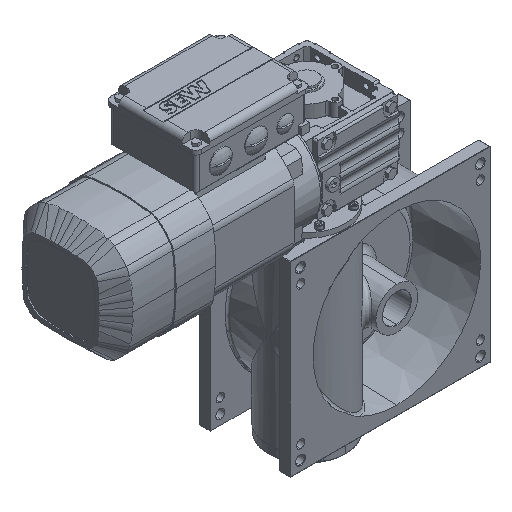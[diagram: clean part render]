
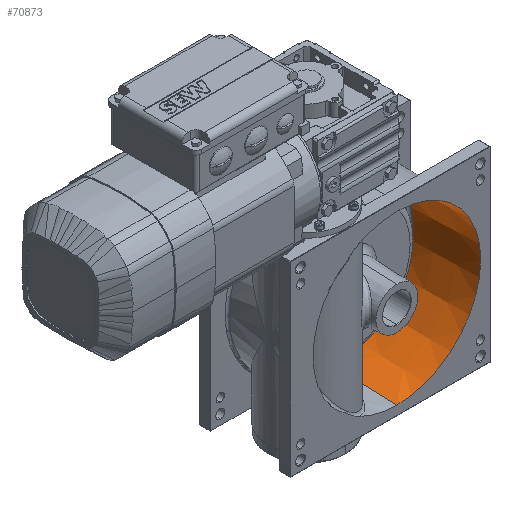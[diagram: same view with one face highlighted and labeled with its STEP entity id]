
A CAD part, isometric view. The second image highlights one B-rep face of the part: STEP entity #70873.
In plain terms, the highlighted conical face has half-angle 2 degrees and reference radius 104.105 mm.
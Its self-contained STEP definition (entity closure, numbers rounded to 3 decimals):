
#1968 = CARTESIAN_POINT ( 'NONE',  ( 0., 84.705, 101.147 ) ) ;
#3693 = VECTOR ( 'NONE', #41235, 1000. ) ;
#4911 = CIRCLE ( 'NONE', #14232, 101.147 ) ;
#7809 = DIRECTION ( 'NONE',  ( 0., 1., 0. ) ) ;
#8694 = EDGE_CURVE ( 'NONE', #64874, #30391, #4911, .T. ) ;
#11816 = DIRECTION ( 'NONE',  ( 0., 0., -1. ) ) ;
#14232 = AXIS2_PLACEMENT_3D ( 'NONE', #39186, #7809, #51398 ) ;
#14814 = AXIS2_PLACEMENT_3D ( 'NONE', #38729, #57626, #58040 ) ;
#16749 = EDGE_CURVE ( 'NONE', #52437, #61012, #27705, .T. ) ;
#24154 = CONICAL_SURFACE ( 'NONE', #14814, 104.105, 0.035 ) ;
#25879 = CARTESIAN_POINT ( 'NONE',  ( 0., 3., -104. ) ) ;
#27242 = EDGE_CURVE ( 'NONE', #30391, #61012, #61971, .T. ) ;
#27628 = EDGE_LOOP ( 'NONE', ( #41923, #45738, #52703, #72097 ) ) ;
#27705 = CIRCLE ( 'NONE', #42564, 104. ) ;
#30391 = VERTEX_POINT ( 'NONE', #60578 ) ;
#31866 = DIRECTION ( 'NONE',  ( 0., 1., 0. ) ) ;
#38729 = CARTESIAN_POINT ( 'NONE',  ( 0., 0., 0. ) ) ;
#39186 = CARTESIAN_POINT ( 'NONE',  ( 0., 84.705, 0. ) ) ;
#40810 = LINE ( 'NONE', #60553, #3693 ) ;
#41235 = DIRECTION ( 'NONE',  ( 0., -0.999, 0.035 ) ) ;
#41923 = ORIENTED_EDGE ( 'NONE', *, *, #47368, .F. ) ;
#42564 = AXIS2_PLACEMENT_3D ( 'NONE', #70760, #31866, #11816 ) ;
#45738 = ORIENTED_EDGE ( 'NONE', *, *, #8694, .T. ) ;
#47368 = EDGE_CURVE ( 'NONE', #64874, #52437, #40810, .T. ) ;
#49014 = DIRECTION ( 'NONE',  ( 0., -0.999, -0.035 ) ) ;
#51398 = DIRECTION ( 'NONE',  ( 0., 0., 1. ) ) ;
#52437 = VERTEX_POINT ( 'NONE', #61186 ) ;
#52703 = ORIENTED_EDGE ( 'NONE', *, *, #27242, .T. ) ;
#57626 = DIRECTION ( 'NONE',  ( 0., -1., 0. ) ) ;
#58040 = DIRECTION ( 'NONE',  ( 0., 0., -1. ) ) ;
#60553 = CARTESIAN_POINT ( 'NONE',  ( 0., 0., 104.105 ) ) ;
#60578 = CARTESIAN_POINT ( 'NONE',  ( 0., 84.705, -101.147 ) ) ;
#61012 = VERTEX_POINT ( 'NONE', #25879 ) ;
#61186 = CARTESIAN_POINT ( 'NONE',  ( 0., 3., 104. ) ) ;
#61971 = LINE ( 'NONE', #81213, #68234 ) ;
#64874 = VERTEX_POINT ( 'NONE', #1968 ) ;
#68234 = VECTOR ( 'NONE', #49014, 1000. ) ;
#70760 = CARTESIAN_POINT ( 'NONE',  ( 0., 3., 0. ) ) ;
#70873 = ADVANCED_FACE ( 'NONE', ( #76384 ), #24154, .F. ) ;
#72097 = ORIENTED_EDGE ( 'NONE', *, *, #16749, .F. ) ;
#76384 = FACE_OUTER_BOUND ( 'NONE', #27628, .T. ) ;
#81213 = CARTESIAN_POINT ( 'NONE',  ( 0., 0., -104.105 ) ) ;
